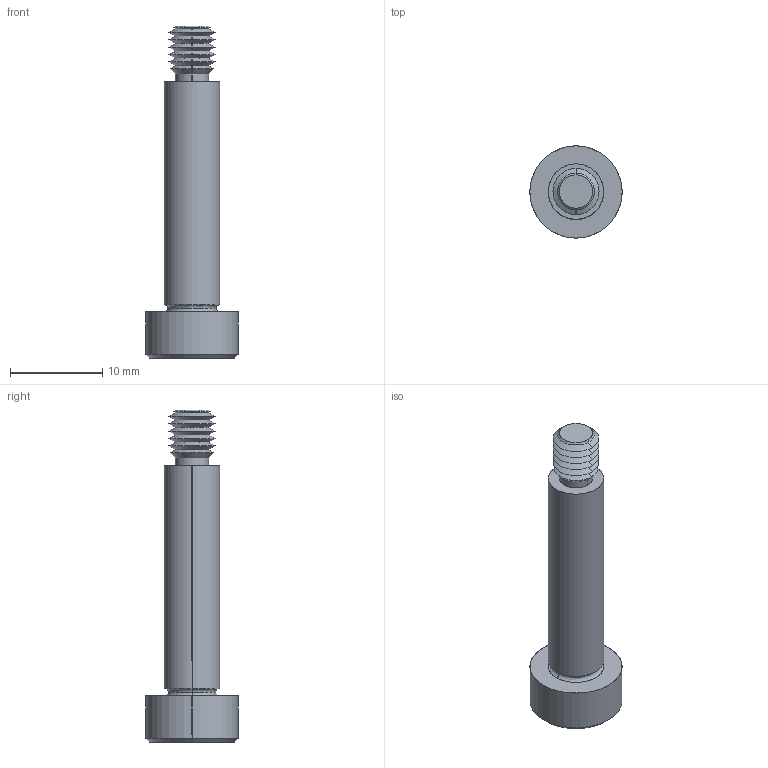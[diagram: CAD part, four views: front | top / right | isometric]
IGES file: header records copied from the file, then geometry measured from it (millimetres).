
Start section: SolidWorks IGES file using analytic representation for surfaces
Global section: file name: C:\Users\IanO\Documents\Temp Folder\GENERAL\SCREW REVISION\P0130_v2\P0130.T5_v2_20220106_IGES\P0130.060-025-T5.igs; native system: SolidWorks 2019; preprocessor: SolidWorks 2019; author: IanO; date: 220106.222502; units: millimetre
Bounding box: 10 x 10 x 36 mm (x, y, z)
Surface area: 958.8 mm2 (no closed solid volume)
Topology: 0 solids, 0 shells, 64 faces, 504 edges, 502 vertices
Faces by surface type: revolution 44, bspline 20
